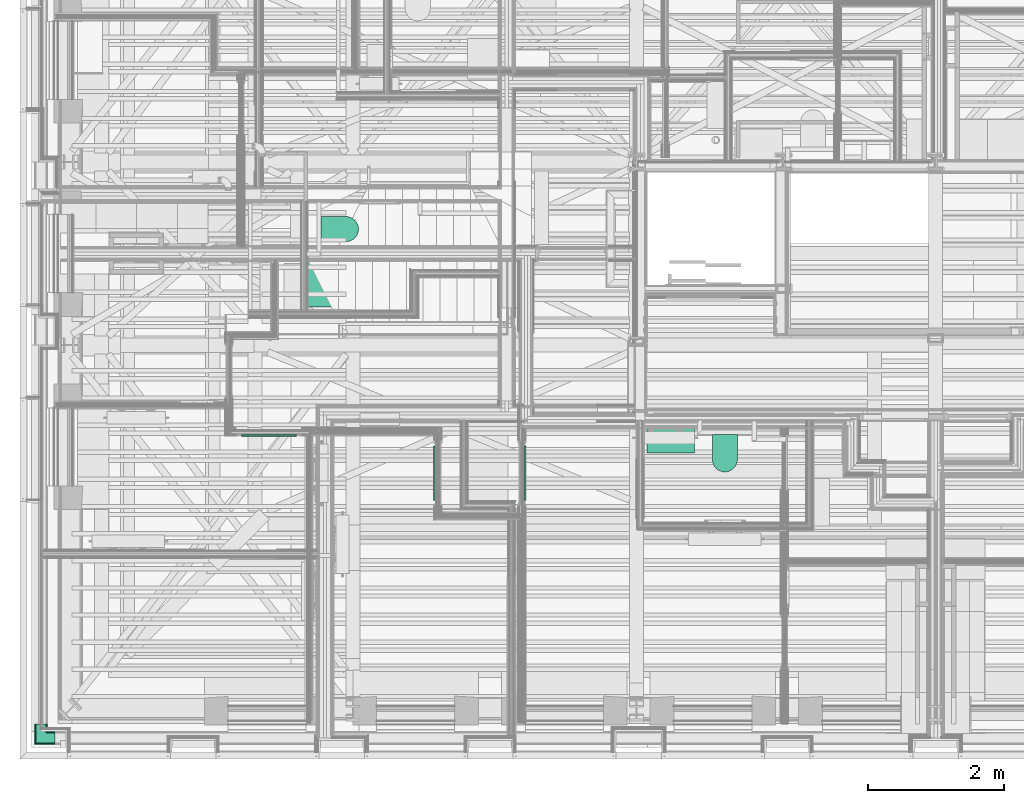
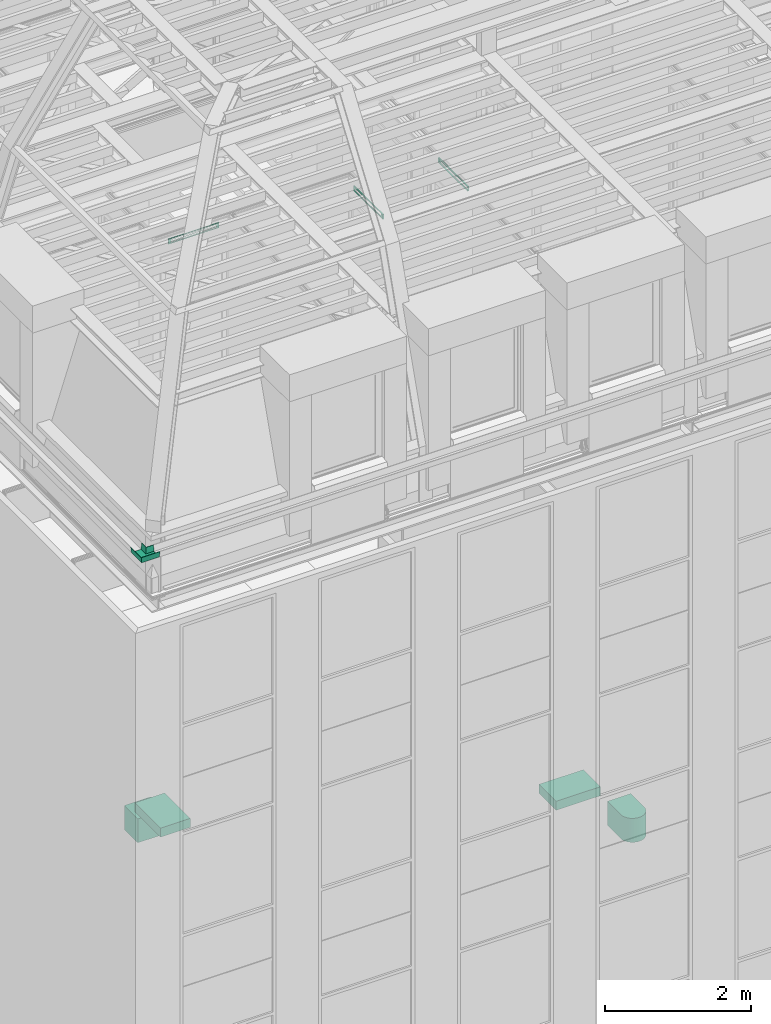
# One storey, part 170 of 183: 7 flow terminals, 1 flow fitting.
"""IFC2X3 building model written with IfcOpenShell, lengths in metres."""

import ifcopenshell
import ifcopenshell.guid

model = None  # the IFC model being written
_history = None  # IfcOwnerHistory: only IFC2X3 demands one
_inside = {}  # id of a spatial element -> (the spatial element, [elements in it])
_under = {}  # id of a project, library or spatial element -> (it, [spatial elements below it])
_declared = {}  # id of a project -> (the project, [libraries it declares])
_typed = {}  # id of a type object -> (the type object, [elements of that type])
_made_of = {}  # id of a material, layer set ... -> (it, [elements and type objects made of it])


def new_model(schema):
    """Start an empty IFC model of exactly this schema.

    Asked for "IFC4X3", IfcOpenShell would pick the latest addendum, in which some entities
    have other attributes; the version numbers below select the first issue.
    IFC2X3 requires an IfcOwnerHistory on every rooted entity: one is made here for all.
    """
    global model, _history
    if schema == "IFC4X3":
        model = ifcopenshell.file(schema_version=(4, 3, 0, 0))
    else:
        model = ifcopenshell.file(schema=schema)
    _inside.clear()
    _under.clear()
    _declared.clear()
    _typed.clear()
    _made_of.clear()
    _history = None
    if model.schema == "IFC2X3":
        org = make("IfcOrganization", Name="unknown")
        user = make(
            "IfcPersonAndOrganization",
            ThePerson=make("IfcPerson", FamilyName="unknown"),
            TheOrganization=org,
        )
        app = make(
            "IfcApplication",
            ApplicationDeveloper=org,
            Version="unknown",
            ApplicationFullName="unknown",
            ApplicationIdentifier="unknown",
        )
        _history = make(
            "IfcOwnerHistory",
            OwningUser=user,
            OwningApplication=app,
            ChangeAction="ADDED",
            CreationDate=0,
        )
    return model


def make(cls, **values):
    """One entity of the class cls with the attributes given. An attribute that is None is left unset."""
    return model.create_entity(
        cls, **{name: value for name, value in values.items() if value is not None}
    )


def entity(cls, *values):
    """Any entity or typed value of the class cls, its attributes in the order of the schema. None: left unset."""
    e = model.create_entity(cls)
    for i, value in enumerate(values):
        if value is not None:
            e[i] = value
    return e


def rooted(cls, **values):
    """An entity with a GlobalId (a new one), such as an element, a storey or a relation."""
    return make(cls, GlobalId=ifcopenshell.guid.new(), OwnerHistory=_history, **values)


def si_unit(unit_type, name, prefix=None):
    """IfcSIUnit, for example si_unit("LENGTHUNIT", "METRE", prefix="MILLI")."""
    return make("IfcSIUnit", UnitType=unit_type, Prefix=prefix, Name=name)


def converted_unit(unit_type, name, factor, base, dimensions=None, offset=None):
    """IfcConversionBasedUnit, such as the inch: factor (a typed value) times the base unit."""
    return make(
        "IfcConversionBasedUnit"
        if offset is None
        else "IfcConversionBasedUnitWithOffset",
        ConversionOffset=offset,
        Dimensions=None
        if dimensions is None
        else entity("IfcDimensionalExponents", *dimensions),
        UnitType=unit_type,
        Name=name,
        ConversionFactor=make(
            "IfcMeasureWithUnit", ValueComponent=factor, UnitComponent=base
        ),
    )


def derived_unit(unit_type, elements):
    """IfcDerivedUnit: a product of units, each with its exponent."""
    return make(
        "IfcDerivedUnit",
        Elements=[
            make("IfcDerivedUnitElement", Unit=unit, Exponent=power)
            for unit, power in elements
        ],
        UnitType=unit_type,
    )


def money_unit(currency):
    """IfcMonetaryUnit."""
    return make("IfcMonetaryUnit", Currency=currency)


def assignment(units):
    """IfcUnitAssignment: the units of a project."""
    return None if units is None else make("IfcUnitAssignment", Units=units)


def point(xyz):
    """IfcCartesianPoint."""
    return None if xyz is None else make("IfcCartesianPoint", Coordinates=xyz)


def direction(xyz):
    """IfcDirection."""
    return None if xyz is None else make("IfcDirection", DirectionRatios=xyz)


def frame(location, z_axis=None, x_axis=None):
    """IfcAxis2Placement3D, a coordinate frame: its origin and axes. An axis left out is left unset."""
    return make(
        "IfcAxis2Placement3D",
        Location=point(location),
        Axis=direction(z_axis),
        RefDirection=direction(x_axis),
    )


def origin_with_axes():
    """The frame at (0, 0, 0) with the z axis (0, 0, 1) and the x axis (1, 0, 0) written out."""
    return frame((0.0, 0.0, 0.0), z_axis=(0.0, 0.0, 1.0), x_axis=(1.0, 0.0, 0.0))


def place(relative_to, where):
    """IfcLocalPlacement: puts the frame where relative to a parent placement (None: the world)."""
    return make(
        "IfcLocalPlacement", PlacementRelTo=relative_to, RelativePlacement=where
    )


def context(
    kind, dimensions, precision=None, world=None, true_north=None, identifier=None
):
    """IfcGeometricRepresentationContext, for example the 3D "Model" context."""
    return make(
        "IfcGeometricRepresentationContext",
        ContextIdentifier=identifier,
        ContextType=kind,
        CoordinateSpaceDimension=dimensions,
        Precision=precision,
        WorldCoordinateSystem=world,
        TrueNorth=true_north,
    )


def subcontext(parent, identifier, kind, view, scale=None):
    """IfcGeometricRepresentationSubContext, for example "Body" below "Model"."""
    return make(
        "IfcGeometricRepresentationSubContext",
        ContextIdentifier=identifier,
        ContextType=kind,
        ParentContext=parent,
        TargetScale=scale,
        TargetView=view,
    )


def project(units=None, contexts=None):
    """IfcProject with its units and contexts."""
    return rooted(
        "IfcProject",
        Name="project",
        RepresentationContexts=contexts,
        UnitsInContext=assignment(units),
    )


def spatial(cls, under=None, at=None, **own):
    """A site, building, storey or space (cls), placed at a placement, below another one or the project."""
    s = rooted(cls, ObjectPlacement=at, **own)
    if under is not None:
        _under.setdefault(under.id(), (under, []))[1].append(s)
    return s


def faces_of(points, faces, orient=None, outer=None):
    """IfcFace entities. A face is a list of loops; a loop is a list of indices into points, from 0.

    orient and outer hold one flag for each loop. By default every Orientation is true, the
    first loop of a face is its IfcFaceOuterBound and the others are IfcFaceBound.
    """
    made = []
    for i, loops in enumerate(faces):
        bounds = []
        for j, loop in enumerate(loops):
            is_outer = j == 0 if outer is None else outer[i][j]
            bounds.append(
                make(
                    "IfcFaceOuterBound" if is_outer else "IfcFaceBound",
                    Bound=make("IfcPolyLoop", Polygon=[points[k] for k in loop]),
                    Orientation=True if orient is None else orient[i][j],
                )
            )
        made.append(make("IfcFace", Bounds=bounds))
    return made


def open_shell(faces, orient=None, outer=None):
    """The faces of one IfcOpenShell. surface_model builds it on its shared points."""
    return ("IfcOpenShell", faces, orient, outer)


def faceted_brep(points, faces, orient=None, outer=None, voids=None):
    """IfcFacetedBrep: a solid bounded by flat faces; with voids (closed shells), ...WithVoids."""
    shared = [point(p) for p in points]
    hull = make("IfcClosedShell", CfsFaces=faces_of(shared, faces, orient, outer))
    if voids is None:
        return make("IfcFacetedBrep", Outer=hull)
    return make(
        "IfcFacetedBrepWithVoids",
        Outer=hull,
        Voids=[
            make(cls, CfsFaces=faces_of(shared, fs, o, b)) for cls, fs, o, b in voids
        ],
    )


def surface_model(cls, points, shells):
    """IfcFaceBasedSurfaceModel or IfcShellBasedSurfaceModel (cls): surfaces that need not close."""
    shared = [point(p) for p in points]
    made = [make(c, CfsFaces=faces_of(shared, fs, o, b)) for c, fs, o, b in shells]
    if cls == "IfcFaceBasedSurfaceModel":
        return make(cls, FbsmFaces=made)
    return make(cls, SbsmBoundary=made)


def shape(context_of_items, identifier, shape_type, items):
    """IfcShapeRepresentation: the items that make up one representation, for example the "Body"."""
    return make(
        "IfcShapeRepresentation",
        ContextOfItems=context_of_items,
        RepresentationIdentifier=identifier,
        RepresentationType=shape_type,
        Items=items,
    )


def material(Name=None, Category=None):
    """IfcMaterial."""
    return make("IfcMaterial", Name=Name, Category=Category)


def made_of(thing, what):
    """Note that an element or type object is made of a material, layer set ...; save() writes the relation."""
    if what is not None:
        _made_of.setdefault(what.id(), (what, []))[1].append(thing)
    return thing


def type_object(cls, material=None, **own):
    """A type object (cls), such as IfcWallType, which elements share."""
    return made_of(rooted(cls, **own), material)


def element(
    cls,
    number,
    at=None,
    inside=None,
    cuts=None,
    type_object=None,
    material=None,
    context=None,
    identifier="Body",
    shape_type=None,
    held_by="IfcProductDefinitionShape",
    body=None,
    shapes=None,
    **own,
):
    """One element of the class cls, such as IfcWall. Its Tag is "e" and its number.

    at: its placement. inside: the storey or other place that contains it. cuts: it is an
    opening in that element (IfcRelVoidsElement). A single representation is given by context,
    identifier, shape_type and body (its items); several are given by shapes. held_by: the class
    of the entity that holds the representations. save() writes the other relations.
    """
    e = rooted(cls, Tag="e%d" % number, ObjectPlacement=at, **own)
    if body is not None:
        shapes = [shape(context, identifier, shape_type, body)]
    if shapes is not None:
        e.Representation = make(held_by, Representations=shapes)
    if inside is not None:
        _inside.setdefault(inside.id(), (inside, []))[1].append(e)
    if cuts is not None:
        rooted(
            "IfcRelVoidsElement", RelatingBuildingElement=cuts, RelatedOpeningElement=e
        )
    if type_object is not None:
        _typed.setdefault(type_object.id(), (type_object, []))[1].append(e)
    return made_of(e, material)


def aggregate(whole, parts):
    """IfcRelAggregates: a whole, such as a stair, and the parts it consists of."""
    return rooted("IfcRelAggregates", RelatingObject=whole, RelatedObjects=parts)


def save(model, path):
    """Write the relations noted so far, then the file.

    IfcRelAggregates (storeys below a building ...), IfcRelContainedInSpatialStructure (elements
    in a storey), IfcRelDefinesByType, IfcRelAssociatesMaterial and IfcRelDeclares: one each for
    every whole, place, type object, material and project.
    """
    for whole, parts in _under.values():
        aggregate(whole, parts)
    for where, things in _inside.values():
        rooted(
            "IfcRelContainedInSpatialStructure",
            RelatedElements=things,
            RelatingStructure=where,
        )
    for kind, things in _typed.values():
        rooted("IfcRelDefinesByType", RelatedObjects=things, RelatingType=kind)
    for what, things in _made_of.values():
        rooted("IfcRelAssociatesMaterial", RelatedObjects=things, RelatingMaterial=what)
    for by, libraries in _declared.values():
        rooted("IfcRelDeclares", RelatingContext=by, RelatedDefinitions=libraries)
    model.write(path)


model = new_model("IFC2X3")

# Units and contexts
model_context = context("Model", 3, precision=1e-05, world=origin_with_axes(), true_north=direction((0.0, 1.0)))
body_context = subcontext(model_context, "Body", "Model", "MODEL_VIEW", scale=1.0)
ifc_project = project(units=[si_unit("LENGTHUNIT", "METRE"), si_unit("AREAUNIT", "SQUARE_METRE"), si_unit("VOLUMEUNIT", "CUBIC_METRE"), si_unit("ABSORBEDDOSEUNIT", "GRAY"), si_unit("AMOUNTOFSUBSTANCEUNIT", "MOLE"), si_unit("DOSEEQUIVALENTUNIT", "SIEVERT"), si_unit("ELECTRICCAPACITANCEUNIT", "FARAD"), si_unit("ELECTRICCHARGEUNIT", "COULOMB"), si_unit("ELECTRICCONDUCTANCEUNIT", "SIEMENS"), si_unit("ELECTRICCURRENTUNIT", "AMPERE"), si_unit("ELECTRICRESISTANCEUNIT", "OHM"), si_unit("ELECTRICVOLTAGEUNIT", "VOLT"), si_unit("ENERGYUNIT", "JOULE"), si_unit("FORCEUNIT", "NEWTON"), si_unit("FREQUENCYUNIT", "HERTZ"), si_unit("ILLUMINANCEUNIT", "LUX"), si_unit("INDUCTANCEUNIT", "HENRY"), si_unit("LUMINOUSFLUXUNIT", "LUMEN"), si_unit("LUMINOUSINTENSITYUNIT", "CANDELA"), si_unit("MAGNETICFLUXDENSITYUNIT", "TESLA"), si_unit("MAGNETICFLUXUNIT", "WEBER"), si_unit("MASSUNIT", "GRAM"), converted_unit("PLANEANGLEUNIT", "degree", entity("IfcReal", 0.0174532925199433), si_unit("PLANEANGLEUNIT", "RADIAN"), dimensions=[0, 0, 0, 0, 0, 0, 0]), si_unit("POWERUNIT", "WATT"), si_unit("PRESSUREUNIT", "PASCAL"), si_unit("RADIOACTIVITYUNIT", "BECQUEREL"), si_unit("SOLIDANGLEUNIT", "STERADIAN"), si_unit("THERMODYNAMICTEMPERATUREUNIT", "KELVIN"), si_unit("TIMEUNIT", "SECOND"), derived_unit("ACCELERATIONUNIT", [(si_unit("LENGTHUNIT", "METRE"), 1), (si_unit("TIMEUNIT", "SECOND"), -2)]), derived_unit("ANGULARVELOCITYUNIT", [(converted_unit("PLANEANGLEUNIT", "degree", entity("IfcReal", 0.0174532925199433), si_unit("PLANEANGLEUNIT", "RADIAN"), dimensions=[0, 0, 0, 0, 0, 0, 0]), 1), (si_unit("TIMEUNIT", "SECOND"), -1)]), derived_unit("CURVATUREUNIT", [(converted_unit("PLANEANGLEUNIT", "degree", entity("IfcReal", 0.0174532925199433), si_unit("PLANEANGLEUNIT", "RADIAN"), dimensions=[0, 0, 0, 0, 0, 0, 0]), 1), (si_unit("LENGTHUNIT", "METRE"), -1)]), derived_unit("DYNAMICVISCOSITYUNIT", [(si_unit("PRESSUREUNIT", "PASCAL"), 1), (si_unit("TIMEUNIT", "SECOND"), 1)]), derived_unit("HEATFLUXDENSITYUNIT", [(si_unit("POWERUNIT", "WATT"), 1), (si_unit("LENGTHUNIT", "METRE"), -2)]), derived_unit("HEATINGVALUEUNIT", [(si_unit("ENERGYUNIT", "JOULE"), 1), (si_unit("MASSUNIT", "GRAM"), -1)]), derived_unit("INTEGERCOUNTRATEUNIT", [(si_unit("TIMEUNIT", "SECOND"), -1)]), derived_unit("IONCONCENTRATIONUNIT", [(si_unit("MASSUNIT", "GRAM"), 1), (si_unit("VOLUMEUNIT", "CUBIC_METRE"), -1)]), derived_unit("ISOTHERMALMOISTURECAPACITYUNIT", [(si_unit("VOLUMEUNIT", "CUBIC_METRE"), 1), (si_unit("MASSUNIT", "GRAM"), -1)]), derived_unit("KINEMATICVISCOSITYUNIT", [(si_unit("AREAUNIT", "SQUARE_METRE"), 1), (si_unit("TIMEUNIT", "SECOND"), -1)]), derived_unit("LINEARFORCEUNIT", [(si_unit("FORCEUNIT", "NEWTON"), 1), (si_unit("LENGTHUNIT", "METRE"), -1)]), derived_unit("LINEARMOMENTUNIT", [(si_unit("FORCEUNIT", "NEWTON"), 1), (si_unit("LENGTHUNIT", "METRE"), -1)]), derived_unit("LINEARSTIFFNESSUNIT", [(si_unit("FORCEUNIT", "NEWTON"), 1), (si_unit("LENGTHUNIT", "METRE"), -1)]), derived_unit("LINEARVELOCITYUNIT", [(si_unit("LENGTHUNIT", "METRE"), 1), (si_unit("TIMEUNIT", "SECOND"), -1)]), derived_unit("LUMINOUSINTENSITYDISTRIBUTIONUNIT", [(si_unit("LUMINOUSINTENSITYUNIT", "CANDELA"), 1), (si_unit("LUMINOUSFLUXUNIT", "LUMEN"), -1)]), derived_unit("MASSDENSITYUNIT", [(si_unit("MASSUNIT", "GRAM"), 1), (si_unit("VOLUMEUNIT", "CUBIC_METRE"), -1)]), derived_unit("MASSFLOWRATEUNIT", [(si_unit("MASSUNIT", "GRAM"), 1), (si_unit("TIMEUNIT", "SECOND"), -1)]), derived_unit("MASSPERLENGTHUNIT", [(si_unit("MASSUNIT", "GRAM"), 1), (si_unit("LENGTHUNIT", "METRE"), -1)]), derived_unit("MODULUSOFELASTICITYUNIT", [(si_unit("FORCEUNIT", "NEWTON"), 1), (si_unit("AREAUNIT", "SQUARE_METRE"), -1)]), derived_unit("MODULUSOFLINEARSUBGRADEREACTIONUNIT", [(si_unit("FORCEUNIT", "NEWTON"), 1), (si_unit("LENGTHUNIT", "METRE"), -2)]), derived_unit("MODULUSOFROTATIONALSUBGRADEREACTIONUNIT", [(si_unit("FORCEUNIT", "NEWTON"), 1), (si_unit("LENGTHUNIT", "METRE"), 1)]), derived_unit("MODULUSOFSUBGRADEREACTIONUNIT", [(si_unit("FORCEUNIT", "NEWTON"), 1), (si_unit("VOLUMEUNIT", "CUBIC_METRE"), -1)]), derived_unit("MOISTUREDIFFUSIVITYUNIT", [(si_unit("VOLUMEUNIT", "CUBIC_METRE"), 1), (si_unit("TIMEUNIT", "SECOND"), -1)]), derived_unit("MOLECULARWEIGHTUNIT", [(si_unit("MASSUNIT", "GRAM"), 1), (si_unit("AMOUNTOFSUBSTANCEUNIT", "MOLE"), -1)]), derived_unit("PLANARFORCEUNIT", [(si_unit("FORCEUNIT", "NEWTON"), 1), (si_unit("LENGTHUNIT", "METRE"), -2)]), derived_unit("ROTATIONALFREQUENCYUNIT", [(si_unit("TIMEUNIT", "SECOND"), -1)]), derived_unit("ROTATIONALMASSUNIT", [(si_unit("MASSUNIT", "GRAM"), 1), (si_unit("LENGTHUNIT", "METRE"), 2)]), derived_unit("ROTATIONALSTIFFNESSUNIT", [(si_unit("FORCEUNIT", "NEWTON"), 1), (si_unit("LENGTHUNIT", "METRE"), 1), (converted_unit("PLANEANGLEUNIT", "degree", entity("IfcReal", 0.0174532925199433), si_unit("PLANEANGLEUNIT", "RADIAN"), dimensions=[0, 0, 0, 0, 0, 0, 0]), -1)]), derived_unit("SECTIONAREAINTEGRALUNIT", [(si_unit("LENGTHUNIT", "METRE"), 5)]), derived_unit("SECTIONMODULUSUNIT", [(si_unit("LENGTHUNIT", "METRE"), 3)]), derived_unit("SHEARMODULUSUNIT", [(si_unit("FORCEUNIT", "NEWTON"), 1), (si_unit("AREAUNIT", "SQUARE_METRE"), -1)]), derived_unit("SOUNDPOWERUNIT", [(si_unit("ENERGYUNIT", "JOULE"), 1), (si_unit("TIMEUNIT", "SECOND"), -1)]), derived_unit("SPECIFICHEATCAPACITYUNIT", [(si_unit("FORCEUNIT", "NEWTON"), 1), (si_unit("MASSUNIT", "GRAM"), -1), (si_unit("THERMODYNAMICTEMPERATUREUNIT", "KELVIN"), -1)]), derived_unit("TEMPERATUREGRADIENTUNIT", [(si_unit("THERMODYNAMICTEMPERATUREUNIT", "KELVIN"), 1), (si_unit("LENGTHUNIT", "METRE"), -1)]), derived_unit("THERMALADMITTANCEUNIT", [(si_unit("POWERUNIT", "WATT"), 1), (si_unit("AREAUNIT", "SQUARE_METRE"), -1), (si_unit("THERMODYNAMICTEMPERATUREUNIT", "KELVIN"), -1)]), derived_unit("THERMALCONDUCTANCEUNIT", [(si_unit("POWERUNIT", "WATT"), 1), (si_unit("LENGTHUNIT", "METRE"), -1), (si_unit("THERMODYNAMICTEMPERATUREUNIT", "KELVIN"), -1)]), derived_unit("THERMALEXPANSIONCOEFFICIENTUNIT", [(si_unit("THERMODYNAMICTEMPERATUREUNIT", "KELVIN"), -1)]), derived_unit("THERMALRESISTANCEUNIT", [(si_unit("AREAUNIT", "SQUARE_METRE"), 1), (si_unit("POWERUNIT", "WATT"), -1)]), derived_unit("THERMALTRANSMITTANCEUNIT", [(si_unit("POWERUNIT", "WATT"), 1), (si_unit("AREAUNIT", "SQUARE_METRE"), -1), (si_unit("THERMODYNAMICTEMPERATUREUNIT", "KELVIN"), -1)]), derived_unit("TORQUEUNIT", [(si_unit("FORCEUNIT", "NEWTON"), 1), (si_unit("LENGTHUNIT", "METRE"), 1)]), derived_unit("VAPORPERMEABILITYUNIT", [(si_unit("MASSUNIT", "GRAM"), 1), (si_unit("TIMEUNIT", "SECOND"), -1)]), derived_unit("VOLUMETRICFLOWRATEUNIT", [(si_unit("VOLUMEUNIT", "CUBIC_METRE"), 1), (si_unit("TIMEUNIT", "SECOND"), -1)]), derived_unit("WARPINGCONSTANTUNIT", [(si_unit("LENGTHUNIT", "METRE"), 6)]), derived_unit("WARPINGMOMENTUNIT", [(si_unit("FORCEUNIT", "NEWTON"), 1), (si_unit("LENGTHUNIT", "METRE"), 2)]), money_unit("GBP")], contexts=[model_context])

# Site, building, storey, space
site_placement = place(None, origin_with_axes())
site = spatial("IfcSite", under=ifc_project, at=site_placement, Name="Site", CompositionType="ELEMENT")
building_placement = place(site_placement, origin_with_axes())
building = spatial("IfcBuilding", under=site, at=building_placement, Name="Building01", CompositionType="ELEMENT")
storey_placement = place(building_placement, frame((0.0, 0.0, 5.15), z_axis=(0.0, 0.0, 1.0), x_axis=(1.0, 0.0, 0.0)))
storey = spatial("IfcBuildingStorey", under=building, at=storey_placement, Name="1F", CompositionType="ELEMENT", Elevation=5.15)
space_1_placement = place(storey_placement, frame((12.175, 4.189428, 9.81), z_axis=(0.0, 0.0, 1.0), x_axis=(0.0, 1.0, 0.0)))
space_1 = spatial("IfcSpace", under=storey, at=space_1_placement, Name="25", CompositionType="ELEMENT", InteriorOrExteriorSpace="NOTDEFINED")

# Flow terminals
ifc_material_1 = material(Name="M_BSUK_Ventilation")
air_terminal_type = type_object("IfcAirTerminalType", Name="M-RectBarSlotsEndGrille-BarSlots", PredefinedType="REGISTER")
for number, where, z_axis, x_axis, name in (
    (1, (3.669976, 4.779939, 12.173), (0.0, 0.0, 1.0), (0.0, -1.0, 0.0), "M-RectBarSlotsEndGrille-BarSlots"),
    (2, (6.120098, 4.209939, 12.173), (0.0, 0.0, 1.0), (-1.0, 0.0, 0.0), "M-RectBarSlotsEndGrille-BarSlots"),
):
    element("IfcFlowTerminal", number, at=place(storey_placement, frame(where, z_axis=z_axis, x_axis=x_axis)), inside=space_1, type_object=air_terminal_type, material=ifc_material_1, Name=name, ObjectType="M-RectBarSlotsEndGrille-BarSlots", context=body_context, shape_type="SurfaceModel", body=[
        surface_model("IfcShellBasedSurfaceModel", [(0.02, -0.36, -0.0349), (0.02, -0.36, -0.036), (0.02, 0.36, -0.036), (0.02, 0.36, -0.0349), (0.02, -0.36, 0.036), (0.02, -0.36, 0.0349), (0.02, 0.36, 0.0349), (0.02, 0.36, 0.036), (0.02, -0.36, -0.0277), (0.02, -0.36, -0.0299), (0.02, 0.36, -0.0299), (0.02, 0.36, -0.0277), (0.02, -0.36, -0.0205), (0.02, -0.36, -0.0227), (0.02, 0.36, -0.0227), (0.02, 0.36, -0.0205), (0.02, -0.36, -0.0133), (0.02, -0.36, -0.0155), (0.02, 0.36, -0.0155), (0.02, 0.36, -0.0133), (0.02, -0.36, -0.0061), (0.02, -0.36, -0.0083), (0.02, 0.36, -0.0083), (0.02, 0.36, -0.0061), (0.02, -0.36, 0.0011), (0.02, -0.36, -0.0011), (0.02, 0.36, -0.0011), (0.02, 0.36, 0.0011), (0.02, -0.36, 0.0083), (0.02, -0.36, 0.0061), (0.02, 0.36, 0.0061), (0.02, 0.36, 0.0083), (0.02, -0.36, 0.0155), (0.02, -0.36, 0.0133), (0.02, 0.36, 0.0133), (0.02, 0.36, 0.0155), (0.02, -0.36, 0.0227), (0.02, -0.36, 0.0205), (0.02, 0.36, 0.0205), (0.02, 0.36, 0.0227), (0.02, -0.36, 0.0299), (0.02, -0.36, 0.0277), (0.02, 0.36, 0.0277), (0.02, 0.36, 0.0299), (0.02, -0.4, -0.04), (0.02, -0.4, 0.04), (0.0, -0.4, 0.04), (0.0, -0.4, -0.04), (0.02, 0.4, 0.04), (0.0, 0.4, 0.04), (0.02, 0.4, -0.04), (0.0, 0.4, -0.04)], [open_shell([[[0, 1, 2, 3]], [[4, 5, 6, 7]], [[8, 9, 10, 11]], [[12, 13, 14, 15]], [[16, 17, 18, 19]], [[20, 21, 22, 23]], [[24, 25, 26, 27]], [[28, 29, 30, 31]], [[32, 33, 34, 35]], [[36, 37, 38, 39]], [[40, 41, 42, 43]], [[44, 45, 46, 47]], [[45, 48, 49, 46]], [[50, 44, 47, 51]], [[48, 50, 51, 49]], [[44, 50, 48, 45], [7, 2, 1, 4]]])]),
    ])
flow_terminal_1_placement = place(storey_placement, frame((7.439998, 4.209939, 12.173), z_axis=(0.0, 0.0, 1.0), x_axis=(-1.0, 0.0, 0.0)))
element("IfcFlowTerminal", 3, at=flow_terminal_1_placement, inside=space_1, type_object=air_terminal_type, material=ifc_material_1, Name="M-RectBarSlotsEndGrille-BarSlots", ObjectType="M-RectBarSlotsEndGrille-BarSlots", context=body_context, shape_type="SurfaceModel", body=[
    surface_model("IfcShellBasedSurfaceModel", [(-0.02, -0.36, -0.0349), (-0.02, -0.36, -0.036), (-0.02, 0.36, -0.036), (-0.02, 0.36, -0.0349), (-0.02, -0.36, 0.036), (-0.02, -0.36, 0.0349), (-0.02, 0.36, 0.0349), (-0.02, 0.36, 0.036), (-0.02, -0.36, -0.0277), (-0.02, -0.36, -0.0299), (-0.02, 0.36, -0.0299), (-0.02, 0.36, -0.0277), (-0.02, -0.36, -0.0205), (-0.02, -0.36, -0.0227), (-0.02, 0.36, -0.0227), (-0.02, 0.36, -0.0205), (-0.02, -0.36, -0.0133), (-0.02, -0.36, -0.0155), (-0.02, 0.36, -0.0155), (-0.02, 0.36, -0.0133), (-0.02, -0.36, -0.0061), (-0.02, -0.36, -0.0083), (-0.02, 0.36, -0.0083), (-0.02, 0.36, -0.0061), (-0.02, -0.36, 0.0011), (-0.02, -0.36, -0.0011), (-0.02, 0.36, -0.0011), (-0.02, 0.36, 0.0011), (-0.02, -0.36, 0.0083), (-0.02, -0.36, 0.0061), (-0.02, 0.36, 0.0061), (-0.02, 0.36, 0.0083), (-0.02, -0.36, 0.0155), (-0.02, -0.36, 0.0133), (-0.02, 0.36, 0.0133), (-0.02, 0.36, 0.0155), (-0.02, -0.36, 0.0227), (-0.02, -0.36, 0.0205), (-0.02, 0.36, 0.0205), (-0.02, 0.36, 0.0227), (-0.02, -0.36, 0.0299), (-0.02, -0.36, 0.0277), (-0.02, 0.36, 0.0277), (-0.02, 0.36, 0.0299), (-0.02, -0.4, -0.04), (-0.02, -0.4, 0.04), (0.0, -0.4, 0.04), (0.0, -0.4, -0.04), (-0.02, 0.4, 0.04), (0.0, 0.4, 0.04), (-0.02, 0.4, -0.04), (0.0, 0.4, -0.04)], [open_shell([[[0, 1, 2, 3]], [[4, 5, 6, 7]], [[8, 9, 10, 11]], [[12, 13, 14, 15]], [[16, 17, 18, 19]], [[20, 21, 22, 23]], [[24, 25, 26, 27]], [[28, 29, 30, 31]], [[32, 33, 34, 35]], [[36, 37, 38, 39]], [[40, 41, 42, 43]], [[44, 45, 46, 47]], [[45, 48, 49, 46]], [[50, 44, 47, 51]], [[48, 50, 51, 49]], [[44, 50, 48, 45], [7, 2, 1, 4]]])]),
])

# Flow fitting
ifc_material_2 = material(Name="A_BSUK_RainwaterDrainageSystems")
pipe_fitting_type = type_object("IfcPipeFittingType", Name="A-RainwaterDrainageSystems-GutterCorner", PredefinedType="NOTDEFINED")
flow_fitting_placement = place(storey_placement, frame((0.514346, 0.514347, 10.629268), z_axis=(0.0, 0.0, 1.0), x_axis=(-1.0, 0.0, 0.0)))
element("IfcFlowFitting", 4, at=flow_fitting_placement, inside=storey, type_object=pipe_fitting_type, material=ifc_material_2, Name="A-RainwaterDrainageSystems-GutterCorner", ObjectType="A-RainwaterDrainageSystems-GutterCorner", context=body_context, shape_type="Brep", body=[
    faceted_brep([(0.111195, 1e-06, 0.099145), (0.116849, 1e-06, 0.099145), (0.129902, 1e-06, 0.0), (0.281294, 1e-06, 0.0), (0.294346, 1e-06, 0.099145), (0.3, 1e-06, 0.099145), (0.3, 1e-06, 0.100732), (0.292954, 1e-06, 0.100732), (0.279902, 1e-06, 0.001588), (0.131294, 1e-06, 0.001588), (0.118241, 1e-06, 0.100732), (0.111195, 1e-06, 0.100732), (0.0, 0.111195, 0.100732), (0.0, 0.118241, 0.100732), (0.0, 0.131294, 0.001588), (0.0, 0.279902, 0.001588), (0.0, 0.292954, 0.100732), (0.0, 0.300001, 0.100732), (0.0, 0.300001, 0.099145), (0.0, 0.294347, 0.099145), (0.0, 0.281294, 0.0), (0.0, 0.129902, 0.0), (0.0, 0.116849, 0.099145), (0.0, 0.111195, 0.099145), (0.111195, 0.111195, 0.100732), (0.111195, 0.111195, 0.099145), (0.118241, 0.118241, 0.100732), (0.131294, 0.131294, 0.001588), (0.279902, 0.279902, 0.001588), (0.292954, 0.292954, 0.100732), (0.3, 0.300001, 0.100732), (0.3, 0.300001, 0.099145), (0.294346, 0.294347, 0.099145), (0.281294, 0.281294, 0.0), (0.129902, 0.129902, 0.0), (0.116849, 0.116849, 0.099145)], [[[0, 1, 2, 3, 4, 5, 6, 7, 8, 9, 10, 11]], [[12, 13, 14, 15, 16, 17, 18, 19, 20, 21, 22, 23]], [[24, 12, 23, 25]], [[10, 26, 13, 12, 24, 11]], [[27, 14, 13, 26]], [[9, 27, 26, 10]], [[8, 28, 15, 14, 27, 9]], [[29, 16, 15, 28]], [[7, 29, 28, 8]], [[6, 30, 17, 16, 29, 7]], [[31, 18, 17, 30]], [[5, 31, 30, 6]], [[4, 32, 19, 18, 31, 5]], [[33, 20, 19, 32]], [[3, 33, 32, 4]], [[2, 34, 21, 20, 33, 3]], [[35, 22, 21, 34]], [[1, 35, 34, 2]], [[0, 25, 23, 22, 35, 1]], [[11, 24, 25, 0]]]),
])

# Space
space_2_placement = place(storey_placement, frame((12.15, 4.98, 0.017975), z_axis=(0.0, 0.0, 1.0), x_axis=(-1.0, 0.0, 0.0)))
space_2 = spatial("IfcSpace", under=storey, at=space_2_placement, Name="05", CompositionType="ELEMENT", InteriorOrExteriorSpace="NOTDEFINED")

# Flow terminal
sanitary_terminal_type_1 = type_object("IfcSanitaryTerminalType", Name="SHE_A-Toilet_base", PredefinedType="NOTDEFINED")
flow_terminal_2_placement = place(storey_placement, frame((10.392528, 4.504997, 0.2), z_axis=(0.0, 0.0, 1.0), x_axis=(0.0, -1.0, 0.0)))
element("IfcFlowTerminal", 5, at=flow_terminal_2_placement, inside=space_2, type_object=sanitary_terminal_type_1, Name="05", ObjectType="SHE_A-Toilet_base", context=body_context, shape_type="Brep", body=[
    faceted_brep([(0.089995, 0.185008, -0.2), (0.126088, 0.181454, -0.2), (0.160795, 0.170926, -0.2), (0.19278, 0.153829, -0.2), (0.220816, 0.130821, -0.2), (0.243824, 0.102785, -0.2), (0.26092, 0.0708, -0.2), (0.271448, 0.036093, -0.2), (0.275003, 0.0, -0.2), (0.271448, -0.036093, -0.2), (0.26092, -0.0708, -0.2), (0.243824, -0.102785, -0.2), (0.220816, -0.130821, -0.2), (0.19278, -0.153829, -0.2), (0.160795, -0.170926, -0.2), (0.126088, -0.181454, -0.2), (0.089995, -0.185009, -0.2), (-0.275003, -0.185009, -0.2), (-0.275003, 0.185008, -0.2), (-0.275003, 0.185008, 0.2), (-0.275003, -0.185009, 0.2), (0.089995, -0.185009, 0.2), (0.126088, -0.181454, 0.2), (0.160795, -0.170926, 0.2), (0.19278, -0.153829, 0.2), (0.220816, -0.130821, 0.2), (0.243824, -0.102785, 0.2), (0.26092, -0.0708, 0.2), (0.271448, -0.036093, 0.2), (0.275003, 0.0, 0.2), (0.271448, 0.036093, 0.2), (0.26092, 0.0708, 0.2), (0.243824, 0.102785, 0.2), (0.220816, 0.130821, 0.2), (0.19278, 0.153829, 0.2), (0.160795, 0.170926, 0.2), (0.126088, 0.181454, 0.2), (0.089995, 0.185008, 0.2)], [[[0, 1, 2, 3, 4, 5, 6, 7, 8, 9, 10, 11, 12, 13, 14, 15, 16, 17, 18]], [[19, 20, 21, 22, 23, 24, 25, 26, 27, 28, 29, 30, 31, 32, 33, 34, 35, 36, 37]], [[15, 22, 21, 16]], [[14, 23, 22, 15]], [[13, 24, 23, 14]], [[12, 25, 24, 13]], [[11, 26, 25, 12]], [[10, 27, 26, 11]], [[9, 28, 27, 10]], [[8, 29, 28, 9]], [[7, 30, 29, 8]], [[6, 31, 30, 7]], [[5, 32, 31, 6]], [[4, 33, 32, 5]], [[3, 34, 33, 4]], [[2, 35, 34, 3]], [[1, 36, 35, 2]], [[0, 37, 36, 1]], [[16, 21, 20, 17]], [[17, 20, 19, 18]], [[18, 19, 37, 0]]]),
])

# Space
space_3_placement = place(storey_placement, frame((0.318, 8.21067, 0.017975), z_axis=(0.0, 0.0, 1.0), x_axis=(0.0, -1.0, 0.0)))
space_3 = spatial("IfcSpace", under=storey, at=space_3_placement, Name="06", CompositionType="ELEMENT", InteriorOrExteriorSpace="NOTDEFINED")

# Flow terminals
flow_terminal_3_placement = place(storey_placement, frame((4.715733, 7.810661, 0.2), z_axis=(0.0, 0.0, 1.0), x_axis=(1.0, 0.0, 0.0)))
element("IfcFlowTerminal", 6, at=flow_terminal_3_placement, inside=space_3, type_object=sanitary_terminal_type_1, Name="06", ObjectType="SHE_A-Toilet_base", context=body_context, shape_type="Brep", body=[
    faceted_brep([(0.089995, 0.185008, -0.2), (0.126088, 0.181454, -0.2), (0.160795, 0.170926, -0.2), (0.19278, 0.153829, -0.2), (0.220816, 0.130821, -0.2), (0.243824, 0.102785, -0.2), (0.26092, 0.0708, -0.2), (0.271448, 0.036093, -0.2), (0.275003, 0.0, -0.2), (0.271448, -0.036093, -0.2), (0.26092, -0.0708, -0.2), (0.243824, -0.102785, -0.2), (0.220816, -0.130821, -0.2), (0.19278, -0.153829, -0.2), (0.160795, -0.170926, -0.2), (0.126088, -0.181454, -0.2), (0.089995, -0.185009, -0.2), (-0.275003, -0.185009, -0.2), (-0.275003, 0.185008, -0.2), (-0.275003, 0.185008, 0.2), (-0.275003, -0.185009, 0.2), (0.089995, -0.185009, 0.2), (0.126088, -0.181454, 0.2), (0.160795, -0.170926, 0.2), (0.19278, -0.153829, 0.2), (0.220816, -0.130821, 0.2), (0.243824, -0.102785, 0.2), (0.26092, -0.0708, 0.2), (0.271448, -0.036093, 0.2), (0.275003, 0.0, 0.2), (0.271448, 0.036093, 0.2), (0.26092, 0.0708, 0.2), (0.243824, 0.102785, 0.2), (0.220816, 0.130821, 0.2), (0.19278, 0.153829, 0.2), (0.160795, 0.170926, 0.2), (0.126088, 0.181454, 0.2), (0.089995, 0.185008, 0.2)], [[[0, 1, 2, 3, 4, 5, 6, 7, 8, 9, 10, 11, 12, 13, 14, 15, 16, 17, 18]], [[19, 20, 21, 22, 23, 24, 25, 26, 27, 28, 29, 30, 31, 32, 33, 34, 35, 36, 37]], [[15, 22, 21, 16]], [[14, 23, 22, 15]], [[13, 24, 23, 14]], [[12, 25, 24, 13]], [[11, 26, 25, 12]], [[10, 27, 26, 11]], [[9, 28, 27, 10]], [[8, 29, 28, 9]], [[7, 30, 29, 8]], [[6, 31, 30, 7]], [[5, 32, 31, 6]], [[4, 33, 32, 5]], [[3, 34, 33, 4]], [[2, 35, 34, 3]], [[1, 36, 35, 2]], [[0, 37, 36, 1]], [[16, 21, 20, 17]], [[17, 20, 19, 18]], [[18, 19, 37, 0]]]),
])
sanitary_terminal_type_2 = type_object("IfcSanitaryTerminalType", Name="SHE_A-Sink_47x70", PredefinedType="NOTDEFINED")
flow_terminal_4_placement = place(storey_placement, frame((9.592536, 4.745, 0.825), z_axis=(0.0, 0.0, 1.0), x_axis=(0.0, 1.0, 0.0)))
element("IfcFlowTerminal", 7, at=flow_terminal_4_placement, inside=space_2, type_object=sanitary_terminal_type_2, Name="05", ObjectType="SHE_A-Sink_47x70", context=body_context, shape_type="Brep", body=[
    faceted_brep([(-0.235, 0.35, -0.075), (-0.235, 0.35, 0.075), (0.235, 0.35, 0.075), (0.235, 0.35, -0.075), (-0.235, -0.35, -0.075), (-0.235, -0.35, 0.075), (0.235, -0.35, -0.075), (0.235, -0.35, 0.075)], [[[0, 1, 2, 3]], [[4, 5, 1, 0]], [[6, 7, 5, 4]], [[3, 2, 7, 6]], [[1, 5, 7, 2]], [[3, 6, 4, 0]]]),
])

# Space
space_4_placement = place(storey_placement, frame((4.24073, 6.606475, 0.017975), z_axis=(0.0, 0.0, 1.0), x_axis=(1.0, 0.0, 0.0)))
space_4 = spatial("IfcSpace", under=storey, at=space_4_placement, Name="bath", CompositionType="ELEMENT", InteriorOrExteriorSpace="NOTDEFINED")

# Flow terminal
flow_terminal_5_placement = place(storey_placement, frame((4.47573, 7.010669, 0.825), z_axis=(0.0, 0.0, 1.0), x_axis=(-1.0, 0.0, 0.0)))
element("IfcFlowTerminal", 8, at=flow_terminal_5_placement, inside=space_4, type_object=sanitary_terminal_type_2, Name="06", ObjectType="SHE_A-Sink_47x70", context=body_context, shape_type="Brep", body=[
    faceted_brep([(-0.235, 0.35, -0.075), (-0.235, 0.35, 0.075), (0.235, 0.35, 0.075), (0.235, 0.35, -0.075), (-0.235, -0.35, -0.075), (-0.235, -0.35, 0.075), (0.235, -0.35, -0.075), (0.235, -0.35, 0.075)], [[[0, 1, 2, 3]], [[4, 5, 1, 0]], [[6, 7, 5, 4]], [[3, 2, 7, 6]], [[1, 5, 7, 2]], [[3, 6, 4, 0]]]),
])

save(model, "model.ifc")
